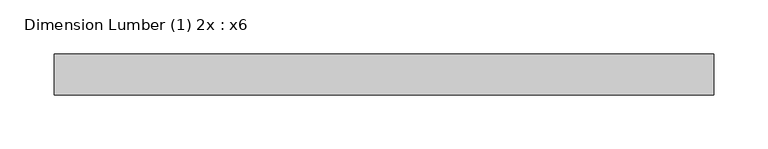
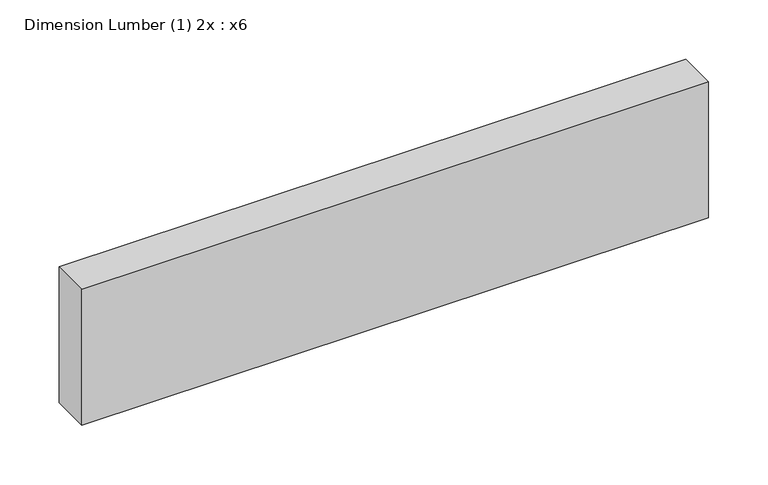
"""IFC4 building model written with IfcOpenShell, lengths in millimetres: beam geometry, Dimension Lumber (1) 2x : x6."""

from ifc_helpers import new_model, si_unit, frame, origin, place, context, project, spatial, polyline, outline, extrude, source, transform, mapped, element, save


def dimension_lumber_1_2x_x6_e73aef81(model_context):
    return source(origin(), model_context, "Body", "SweptSolid", [
        extrude(outline(polyline([(333.3749994, 19.05), (333.3749994, -19.05), (-276.225, -19.05), (-276.225, 19.05), (333.3749994, 19.05)])), frame((0.0, 0.0, -69.85), z_axis=(0.0, 0.0, 1.0), x_axis=(1.0, 0.0, 0.0)), (0.0, 0.0, 1.0), 139.7),
    ])


if __name__ == "__main__":
    model = new_model("IFC4")
    model_context = context("Model", 3, world=origin())
    ifc_project = project(units=[si_unit("LENGTHUNIT", "METRE", prefix="MILLI")], contexts=[model_context])
    site = spatial("IfcSite", under=ifc_project)
    building = spatial("IfcBuilding", under=site)
    placement = place(None, origin())
    dimension_lumber_1_2x_x6_shape = dimension_lumber_1_2x_x6_e73aef81(model_context)
    element("IfcBeam", 1, ObjectType="Dimension Lumber (1) 2x : x6", at=placement, inside=building, context=model_context, shape_type="MappedRepresentation", body=[
        mapped(dimension_lumber_1_2x_x6_shape, transform((0.0, 0.0, 0.0), x_axis=(1.0, 0.0, 0.0), y_axis=(0.0, 1.0, 0.0), z_axis=(0.0, 0.0, 1.0))),
    ])
    save(model, "model.ifc")
